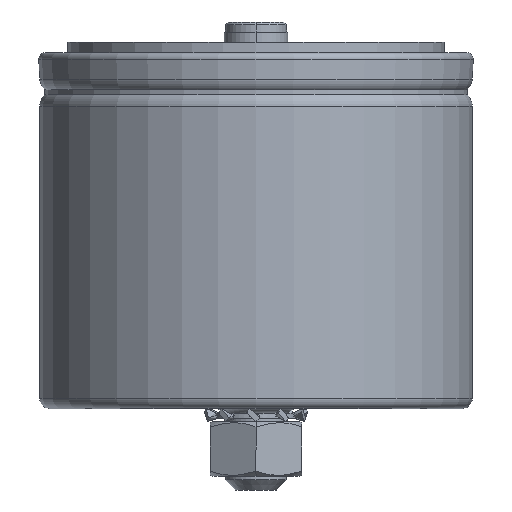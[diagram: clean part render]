
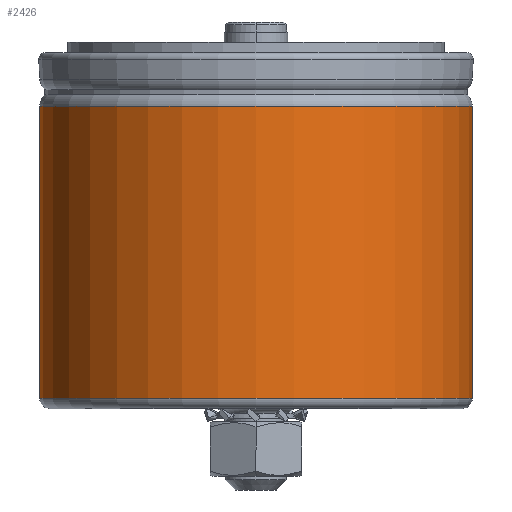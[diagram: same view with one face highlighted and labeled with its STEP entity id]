
A CAD part, left-side view. The second image highlights one B-rep face of the part: STEP entity #2426.
In plain terms, the highlighted cylindrical face has radius 42.5 mm (diameter 85 mm), a partial arc.
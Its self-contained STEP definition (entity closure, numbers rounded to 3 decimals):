
#71 = VERTEX_POINT ( 'NONE', #1034 ) ;
#235 = CYLINDRICAL_SURFACE ( 'NONE', #3231, 42.5 ) ;
#333 = VERTEX_POINT ( 'NONE', #2801 ) ;
#418 = CARTESIAN_POINT ( 'NONE',  ( 0., 0., 3.907 ) ) ;
#541 = EDGE_CURVE ( 'NONE', #4077, #71, #3348, .T. ) ;
#859 = ORIENTED_EDGE ( 'NONE', *, *, #1356, .T. ) ;
#1034 = CARTESIAN_POINT ( 'NONE',  ( 0., 42.5, 61.355 ) ) ;
#1356 = EDGE_CURVE ( 'NONE', #333, #3510, #3771, .T. ) ;
#1911 = ORIENTED_EDGE ( 'NONE', *, *, #541, .T. ) ;
#1964 = ORIENTED_EDGE ( 'NONE', *, *, #7320, .T. ) ;
#1978 = DIRECTION ( 'NONE',  ( 0., 1., 0. ) ) ;
#2036 = VECTOR ( 'NONE', #2743, 1000. ) ;
#2211 = CARTESIAN_POINT ( 'NONE',  ( 0., 42.5, 1.907 ) ) ;
#2327 = VECTOR ( 'NONE', #5115, 1000. ) ;
#2426 = ADVANCED_FACE ( 'NONE', ( #3470 ), #235, .T. ) ;
#2605 = CARTESIAN_POINT ( 'NONE',  ( 0., -42.5, 3.907 ) ) ;
#2743 = DIRECTION ( 'NONE',  ( 0., 0., -1. ) ) ;
#2801 = CARTESIAN_POINT ( 'NONE',  ( 0., 42.5, 3.907 ) ) ;
#3231 = AXIS2_PLACEMENT_3D ( 'NONE', #5435, #3646, #1978 ) ;
#3348 = CIRCLE ( 'NONE', #6801, 42.5 ) ;
#3352 = DIRECTION ( 'NONE',  ( 0., 1., 0. ) ) ;
#3425 = DIRECTION ( 'NONE',  ( 0., 1., 0. ) ) ;
#3470 = FACE_OUTER_BOUND ( 'NONE', #4375, .T. ) ;
#3510 = VERTEX_POINT ( 'NONE', #2605 ) ;
#3646 = DIRECTION ( 'NONE',  ( 0., 0., -1. ) ) ;
#3771 = CIRCLE ( 'NONE', #4293, 42.5 ) ;
#4076 = CARTESIAN_POINT ( 'NONE',  ( 0., -42.5, 1.907 ) ) ;
#4077 = VERTEX_POINT ( 'NONE', #5453 ) ;
#4210 = LINE ( 'NONE', #4076, #2327 ) ;
#4244 = ORIENTED_EDGE ( 'NONE', *, *, #6926, .F. ) ;
#4293 = AXIS2_PLACEMENT_3D ( 'NONE', #418, #5649, #3352 ) ;
#4375 = EDGE_LOOP ( 'NONE', ( #4244, #1911, #1964, #859 ) ) ;
#5115 = DIRECTION ( 'NONE',  ( 0., 0., -1. ) ) ;
#5435 = CARTESIAN_POINT ( 'NONE',  ( 0., 0., 1.907 ) ) ;
#5453 = CARTESIAN_POINT ( 'NONE',  ( 0., -42.5, 61.355 ) ) ;
#5649 = DIRECTION ( 'NONE',  ( 0., 0., 1. ) ) ;
#5724 = CARTESIAN_POINT ( 'NONE',  ( 0., 0., 61.355 ) ) ;
#6549 = LINE ( 'NONE', #2211, #2036 ) ;
#6801 = AXIS2_PLACEMENT_3D ( 'NONE', #5724, #6921, #3425 ) ;
#6921 = DIRECTION ( 'NONE',  ( 0., 0., -1. ) ) ;
#6926 = EDGE_CURVE ( 'NONE', #4077, #3510, #4210, .T. ) ;
#7320 = EDGE_CURVE ( 'NONE', #71, #333, #6549, .T. ) ;
